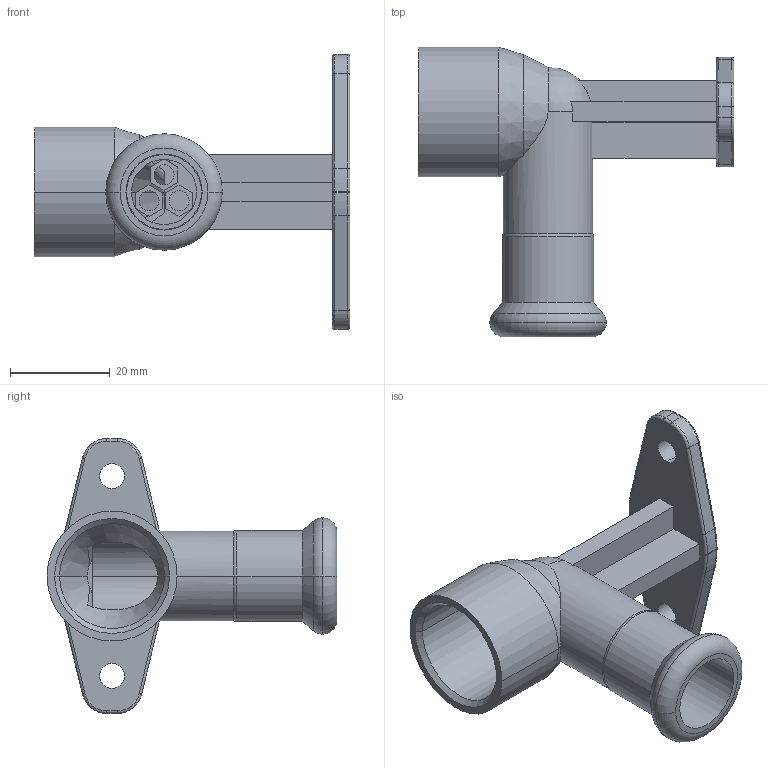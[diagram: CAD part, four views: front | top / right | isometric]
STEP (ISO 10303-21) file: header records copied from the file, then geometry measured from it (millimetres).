
FILE_DESCRIPTION(('OneSpaceDesigner STEP Export'),'2;1');
FILE_NAME('R2737 15xRp1-2.stp','2010-06-10T14:10:33',(''),(''),'OneSpace Designer STEP processor for AP214 (Solid Model)','OneSpace Modeling 15.00A 14-Mar-2007 (C) CoCreate Software GmbH','');
FILE_SCHEMA(('AUTOMOTIVE_DESIGN { 1 0 10303 214 1 1 1 1 }'));
Length unit declared in the file: millimetre
Products named in the file (2): R2737_15xRp1-2
Assembly tree (1 placements, depth 2):
  R2737_15xRp1-2
    R2737_15xRp1-2
Bounding box: 63.2 x 58 x 55 mm (x, y, z)
Volume: 14726.6 mm3; surface area: 12593.3 mm2
Topology: 1 solids, 1 shells, 144 faces, 355 edges, 219 vertices
Faces by surface type: plane 56, cylinder 53, torus 22, cone 10, bspline 2, sphere 1
Entity records: 5664 total; most frequent: CARTESIAN_POINT 2339, ORIENTED_EDGE 708, DIRECTION 663, EDGE_CURVE 354, AXIS2_PLACEMENT_3D 241, VERTEX_POINT 219, VECTOR 181, LINE 181
